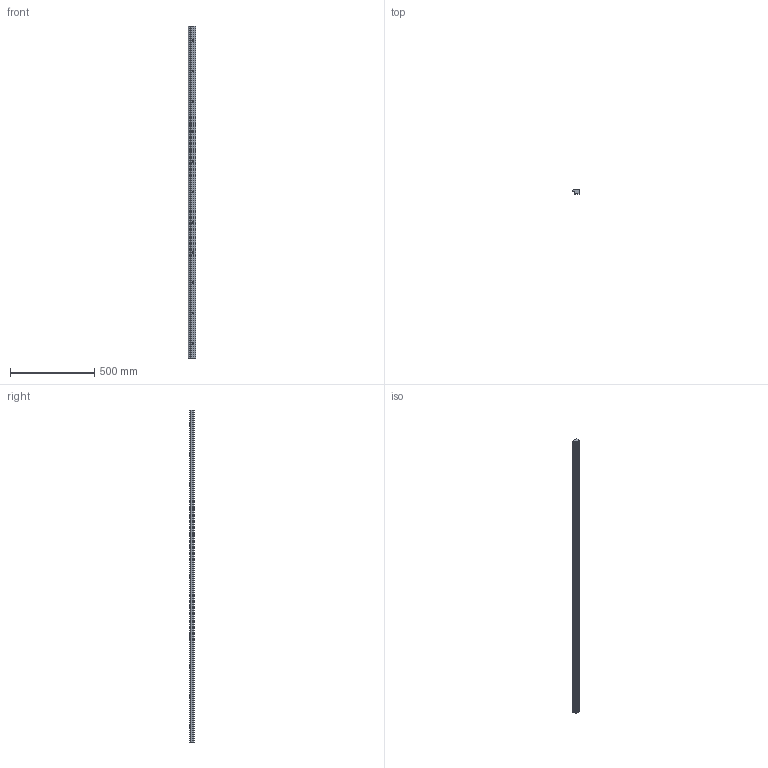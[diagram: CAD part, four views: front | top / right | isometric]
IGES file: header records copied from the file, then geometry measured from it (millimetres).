
Start section: 3D InterOp IGES (v. 2019 1.0.2), Spatial Corp. Copyright (c) 1999-2017.
Global section: file name: NLE L1976 P2.igs; native system: Spatial Corp.; preprocessor: 3D InterOp GENERIC/IGES 3.0; author: Noname; organization: Noname; date: 20220704.105724; units: millimetre
Bounding box: 42.8 x 24.41 x 1976 mm (x, y, z)
Surface area: 279765.8 mm2 (no closed solid volume)
Topology: 0 solids, 0 shells, 78 faces, 390 edges, 390 vertices
Faces by surface type: revolution 54, extrusion 24
